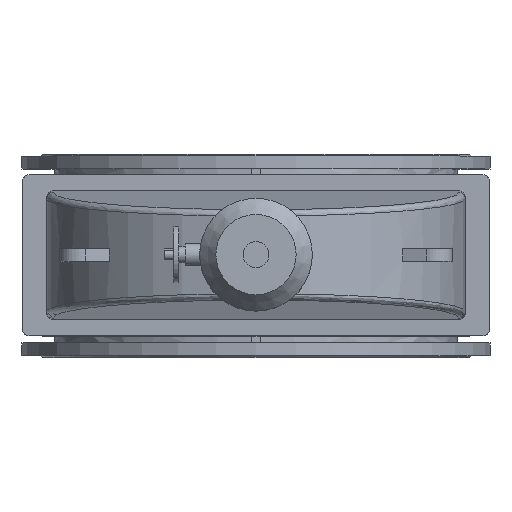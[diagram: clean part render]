
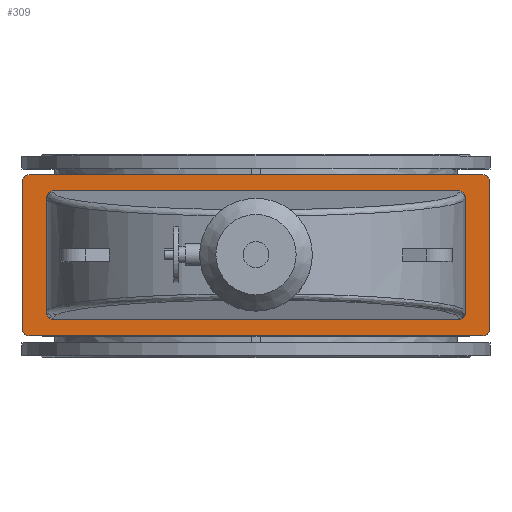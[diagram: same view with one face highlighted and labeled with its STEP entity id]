
A CAD part, top view. The second image highlights one B-rep face of the part: STEP entity #309.
In plain terms, the highlighted planar face has unit normal (0, 0, 1).
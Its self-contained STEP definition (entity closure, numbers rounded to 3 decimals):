
#309=ADVANCED_FACE('',(#4212,#4214),#4216,.T.);
#4212=FACE_BOUND('',#4213,.T.);
#4213=EDGE_LOOP('',(#10402,#10403,#10404,#10405,#10406,#10407,#10408,#10409));
#4214=FACE_BOUND('',#4215,.T.);
#4215=EDGE_LOOP('',(#10410,#10411,#10412,#10413,#10414,#10415,#10416,#10417));
#4216=PLANE('',#4217);
#4217=AXIS2_PLACEMENT_3D('',#4218,#4219,#4220);
#4218=CARTESIAN_POINT('',(0.,0.,1316.));
#4219=DIRECTION('',(0.,-0.,1.));
#4220=DIRECTION('',(0.,1.,0.));
#10402=ORIENTED_EDGE('',*,*,#12036,.F.);
#10403=ORIENTED_EDGE('',*,*,#12037,.T.);
#10404=ORIENTED_EDGE('',*,*,#12038,.F.);
#10405=ORIENTED_EDGE('',*,*,#12039,.T.);
#10406=ORIENTED_EDGE('',*,*,#12040,.F.);
#10407=ORIENTED_EDGE('',*,*,#12041,.T.);
#10408=ORIENTED_EDGE('',*,*,#12042,.F.);
#10409=ORIENTED_EDGE('',*,*,#12043,.T.);
#10410=ORIENTED_EDGE('',*,*,#12034,.F.);
#10411=ORIENTED_EDGE('',*,*,#12033,.F.);
#10412=ORIENTED_EDGE('',*,*,#12035,.F.);
#10413=ORIENTED_EDGE('',*,*,#12008,.F.);
#10414=ORIENTED_EDGE('',*,*,#12044,.F.);
#10415=ORIENTED_EDGE('',*,*,#12045,.F.);
#10416=ORIENTED_EDGE('',*,*,#12046,.F.);
#10417=ORIENTED_EDGE('',*,*,#12001,.F.);
#12001=EDGE_CURVE('',#12864,#12866,#12867,.T.);
#12008=EDGE_CURVE('',#12876,#12874,#12878,.T.);
#12033=EDGE_CURVE('',#12917,#12915,#12919,.T.);
#12034=EDGE_CURVE('',#12915,#12864,#12920,.F.);
#12035=EDGE_CURVE('',#12874,#12917,#12921,.T.);
#12036=EDGE_CURVE('',#12922,#12923,#12924,.F.);
#12037=EDGE_CURVE('',#12922,#12925,#12926,.T.);
#12038=EDGE_CURVE('',#12927,#12925,#12928,.F.);
#12039=EDGE_CURVE('',#12927,#12929,#12930,.T.);
#12040=EDGE_CURVE('',#12931,#12929,#12932,.F.);
#12041=EDGE_CURVE('',#12931,#12933,#12934,.T.);
#12042=EDGE_CURVE('',#12935,#12933,#12936,.F.);
#12043=EDGE_CURVE('',#12935,#12923,#12937,.T.);
#12044=EDGE_CURVE('',#12938,#12876,#12939,.F.);
#12045=EDGE_CURVE('',#12940,#12938,#12941,.T.);
#12046=EDGE_CURVE('',#12866,#12940,#12942,.T.);
#12864=VERTEX_POINT('',#14488);
#12866=VERTEX_POINT('',#14492);
#12867=LINE('',#14493,#14494);
#12874=VERTEX_POINT('',#14513);
#12876=VERTEX_POINT('',#14517);
#12878=LINE('',#14521,#14522);
#12915=VERTEX_POINT('',#14614);
#12917=VERTEX_POINT('',#14618);
#12919=LINE('',#14622,#14623);
#12920=(BOUNDED_CURVE()B_SPLINE_CURVE(3,
(#14625,#14626,#14627,#14628),
.UNSPECIFIED.,.F.,.F.)B_SPLINE_CURVE_WITH_KNOTS((4,4),
(0.,1.),
.UNSPECIFIED.)CURVE()GEOMETRIC_REPRESENTATION_ITEM()RATIONAL_B_SPLINE_CURVE((1.,
0.805,0.805,1.))REPRESENTATION_ITEM(''));
#12921=(BOUNDED_CURVE()B_SPLINE_CURVE(3,
(#14629,#14630,#14631,#14632),
.UNSPECIFIED.,.F.,.F.)B_SPLINE_CURVE_WITH_KNOTS((4,4),
(0.,1.),
.UNSPECIFIED.)CURVE()GEOMETRIC_REPRESENTATION_ITEM()RATIONAL_B_SPLINE_CURVE((1.,
0.805,0.805,1.))REPRESENTATION_ITEM(''));
#12922=VERTEX_POINT('',#14633);
#12923=VERTEX_POINT('',#14634);
#12924=CIRCLE('',#14635,20.);
#12925=VERTEX_POINT('',#14639);
#12926=LINE('',#14640,#14641);
#12927=VERTEX_POINT('',#14643);
#12928=CIRCLE('',#14644,20.);
#12929=VERTEX_POINT('',#14648);
#12930=LINE('',#14649,#14650);
#12931=VERTEX_POINT('',#14652);
#12932=CIRCLE('',#14653,20.);
#12933=VERTEX_POINT('',#14657);
#12934=LINE('',#14658,#14659);
#12935=VERTEX_POINT('',#14661);
#12936=CIRCLE('',#14662,20.);
#12937=LINE('',#14666,#14667);
#12938=VERTEX_POINT('',#14669);
#12939=(BOUNDED_CURVE()B_SPLINE_CURVE(3,
(#14670,#14671,#14672,#14673),
.UNSPECIFIED.,.F.,.F.)B_SPLINE_CURVE_WITH_KNOTS((4,4),
(0.,1.),
.UNSPECIFIED.)CURVE()GEOMETRIC_REPRESENTATION_ITEM()RATIONAL_B_SPLINE_CURVE((1.,
0.805,0.805,1.))REPRESENTATION_ITEM(''));
#12940=VERTEX_POINT('',#14674);
#12941=LINE('',#14675,#14676);
#12942=(BOUNDED_CURVE()B_SPLINE_CURVE(3,
(#14678,#14679,#14680,#14681),
.UNSPECIFIED.,.F.,.F.)B_SPLINE_CURVE_WITH_KNOTS((4,4),
(0.,1.),
.UNSPECIFIED.)CURVE()GEOMETRIC_REPRESENTATION_ITEM()RATIONAL_B_SPLINE_CURVE((1.,
0.805,0.805,1.))REPRESENTATION_ITEM(''));
#14488=CARTESIAN_POINT('',(650.,-179.924,1316.));
#14492=CARTESIAN_POINT('',(650.,179.924,1316.));
#14493=CARTESIAN_POINT('',(650.,-179.924,1316.));
#14494=VECTOR('',#14495,1.);
#14495=DIRECTION('',(0.,1.,0.));
#14513=CARTESIAN_POINT('',(-650.,-179.924,1316.));
#14517=CARTESIAN_POINT('',(-650.,179.924,1316.));
#14521=CARTESIAN_POINT('',(-650.,179.924,1316.));
#14522=VECTOR('',#14523,1.);
#14523=DIRECTION('',(0.,-1.,0.));
#14614=CARTESIAN_POINT('',(630.,-200.,1316.));
#14618=CARTESIAN_POINT('',(-630.,-200.,1316.));
#14622=CARTESIAN_POINT('',(-630.,-200.,1316.));
#14623=VECTOR('',#14624,1.);
#14624=DIRECTION('',(1.,0.,0.));
#14625=CARTESIAN_POINT('',(650.,-179.924,1316.));
#14626=CARTESIAN_POINT('',(650.,-191.684,1316.));
#14627=CARTESIAN_POINT('',(641.716,-200.,1316.));
#14628=CARTESIAN_POINT('',(630.,-200.,1316.));
#14629=CARTESIAN_POINT('',(-650.,-179.924,1316.));
#14630=CARTESIAN_POINT('',(-650.,-191.684,1316.));
#14631=CARTESIAN_POINT('',(-641.716,-200.,1316.));
#14632=CARTESIAN_POINT('',(-630.,-200.,1316.));
#14633=CARTESIAN_POINT('',(-705.,-250.,1316.));
#14634=CARTESIAN_POINT('',(-725.,-230.,1316.));
#14635=AXIS2_PLACEMENT_3D('',#14636,#14637,#14638);
#14636=CARTESIAN_POINT('',(-705.,-230.,1316.));
#14637=DIRECTION('',(0.,-0.,1.));
#14638=DIRECTION('',(-1.,0.,0.));
#14639=CARTESIAN_POINT('',(705.,-250.,1316.));
#14640=CARTESIAN_POINT('',(-705.,-250.,1316.));
#14641=VECTOR('',#14642,1.);
#14642=DIRECTION('',(1.,0.,0.));
#14643=CARTESIAN_POINT('',(725.,-230.,1316.));
#14644=AXIS2_PLACEMENT_3D('',#14645,#14646,#14647);
#14645=CARTESIAN_POINT('',(705.,-230.,1316.));
#14646=DIRECTION('',(0.,-0.,1.));
#14647=DIRECTION('',(0.,-1.,0.));
#14648=CARTESIAN_POINT('',(725.,230.,1316.));
#14649=CARTESIAN_POINT('',(725.,-230.,1316.));
#14650=VECTOR('',#14651,1.);
#14651=DIRECTION('',(0.,1.,0.));
#14652=CARTESIAN_POINT('',(705.,250.,1316.));
#14653=AXIS2_PLACEMENT_3D('',#14654,#14655,#14656);
#14654=CARTESIAN_POINT('',(705.,230.,1316.));
#14655=DIRECTION('',(0.,-0.,1.));
#14656=DIRECTION('',(1.,0.,0.));
#14657=CARTESIAN_POINT('',(-705.,250.,1316.));
#14658=CARTESIAN_POINT('',(705.,250.,1316.));
#14659=VECTOR('',#14660,1.);
#14660=DIRECTION('',(-1.,0.,0.));
#14661=CARTESIAN_POINT('',(-725.,230.,1316.));
#14662=AXIS2_PLACEMENT_3D('',#14663,#14664,#14665);
#14663=CARTESIAN_POINT('',(-705.,230.,1316.));
#14664=DIRECTION('',(0.,-0.,1.));
#14665=DIRECTION('',(0.,1.,0.));
#14666=CARTESIAN_POINT('',(-725.,230.,1316.));
#14667=VECTOR('',#14668,1.);
#14668=DIRECTION('',(0.,-1.,0.));
#14669=CARTESIAN_POINT('',(-630.,200.,1316.));
#14670=CARTESIAN_POINT('',(-650.,179.924,1316.));
#14671=CARTESIAN_POINT('',(-650.,191.684,1316.));
#14672=CARTESIAN_POINT('',(-641.716,200.,1316.));
#14673=CARTESIAN_POINT('',(-630.,200.,1316.));
#14674=CARTESIAN_POINT('',(630.,200.,1316.));
#14675=CARTESIAN_POINT('',(630.,200.,1316.));
#14676=VECTOR('',#14677,1.);
#14677=DIRECTION('',(-1.,0.,0.));
#14678=CARTESIAN_POINT('',(650.,179.924,1316.));
#14679=CARTESIAN_POINT('',(650.,191.684,1316.));
#14680=CARTESIAN_POINT('',(641.716,200.,1316.));
#14681=CARTESIAN_POINT('',(630.,200.,1316.));
